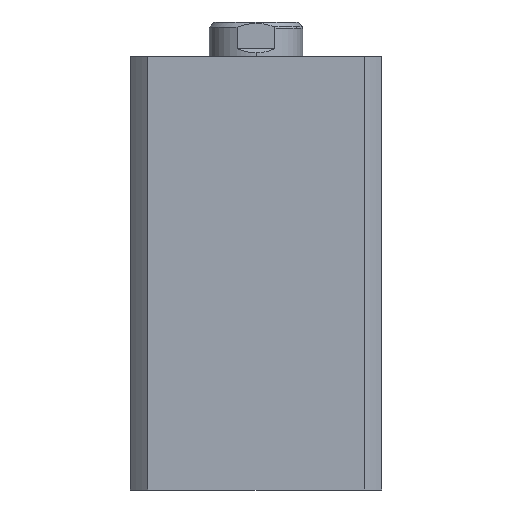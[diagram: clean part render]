
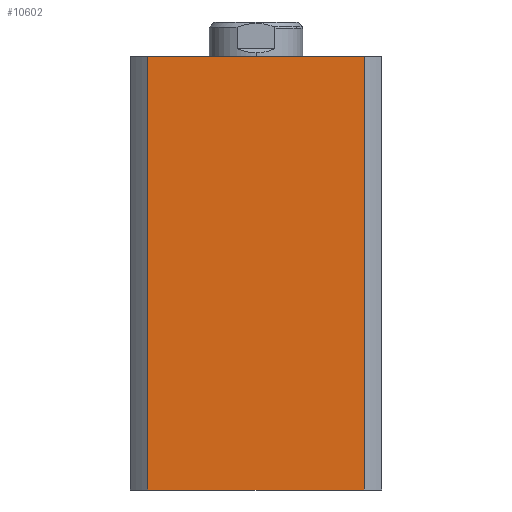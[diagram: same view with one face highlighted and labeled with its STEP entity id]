
A CAD part, left-side view. The second image highlights one B-rep face of the part: STEP entity #10602.
In plain terms, the highlighted planar face has unit normal (-1, 0, 0).
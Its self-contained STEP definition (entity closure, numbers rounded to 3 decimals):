
#309 = EDGE_LOOP ( 'NONE', ( #10932, #14532, #6347, #5764 ) ) ;
#1118 = EDGE_CURVE ( 'NONE', #3052, #14122, #5518, .T. ) ;
#1772 = CARTESIAN_POINT ( 'NONE',  ( -47., -40.435, 0. ) ) ;
#2109 = LINE ( 'NONE', #17132, #16221 ) ;
#2247 = DIRECTION ( 'NONE',  ( 1., 0., 0. ) ) ;
#2576 = DIRECTION ( 'NONE',  ( 0., 0., 1. ) ) ;
#3052 = VERTEX_POINT ( 'NONE', #7881 ) ;
#3965 = CARTESIAN_POINT ( 'NONE',  ( -47., 40.435, -138. ) ) ;
#4107 = DIRECTION ( 'NONE',  ( 0., 0., -1. ) ) ;
#4382 = CARTESIAN_POINT ( 'NONE',  ( -47., 40.435, 0. ) ) ;
#5518 = LINE ( 'NONE', #5573, #9998 ) ;
#5573 = CARTESIAN_POINT ( 'NONE',  ( -47., 47., 162. ) ) ;
#5764 = ORIENTED_EDGE ( 'NONE', *, *, #1118, .F. ) ;
#6347 = ORIENTED_EDGE ( 'NONE', *, *, #13992, .F. ) ;
#6350 = PLANE ( 'NONE',  #16784 ) ;
#6418 = VECTOR ( 'NONE', #4107, 1000. ) ;
#7281 = LINE ( 'NONE', #3965, #13638 ) ;
#7881 = CARTESIAN_POINT ( 'NONE',  ( -47., 40.435, 162. ) ) ;
#8399 = CARTESIAN_POINT ( 'NONE',  ( -47., -40.435, 162. ) ) ;
#8961 = DIRECTION ( 'NONE',  ( 0., -1., 0. ) ) ;
#8977 = FACE_OUTER_BOUND ( 'NONE', #309, .T. ) ;
#9998 = VECTOR ( 'NONE', #15101, 1000. ) ;
#10428 = EDGE_CURVE ( 'NONE', #12921, #13331, #2109, .T. ) ;
#10602 = ADVANCED_FACE ( 'NONE', ( #8977 ), #6350, .F. ) ;
#10932 = ORIENTED_EDGE ( 'NONE', *, *, #17644, .F. ) ;
#11813 = DIRECTION ( 'NONE',  ( 0., 1., 0. ) ) ;
#12921 = VERTEX_POINT ( 'NONE', #4382 ) ;
#13331 = VERTEX_POINT ( 'NONE', #1772 ) ;
#13618 = CARTESIAN_POINT ( 'NONE',  ( -47., -40.435, -138. ) ) ;
#13626 = LINE ( 'NONE', #13618, #6418 ) ;
#13638 = VECTOR ( 'NONE', #2576, 1000. ) ;
#13992 = EDGE_CURVE ( 'NONE', #14122, #13331, #13626, .T. ) ;
#14122 = VERTEX_POINT ( 'NONE', #8399 ) ;
#14443 = CARTESIAN_POINT ( 'NONE',  ( -47., 47., 162. ) ) ;
#14532 = ORIENTED_EDGE ( 'NONE', *, *, #10428, .T. ) ;
#15101 = DIRECTION ( 'NONE',  ( 0., -1., 0. ) ) ;
#16221 = VECTOR ( 'NONE', #8961, 1000. ) ;
#16784 = AXIS2_PLACEMENT_3D ( 'NONE', #14443, #2247, #11813 ) ;
#17132 = CARTESIAN_POINT ( 'NONE',  ( -47., 47., 0. ) ) ;
#17644 = EDGE_CURVE ( 'NONE', #12921, #3052, #7281, .T. ) ;
